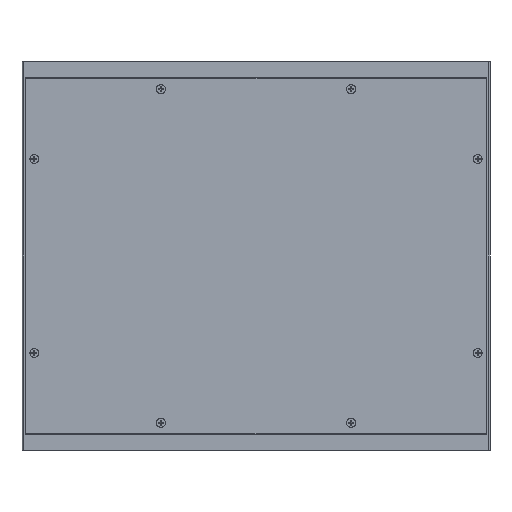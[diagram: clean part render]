
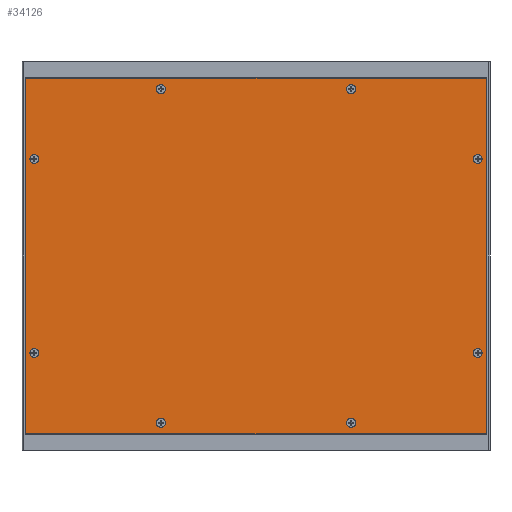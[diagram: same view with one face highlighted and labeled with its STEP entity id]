
A CAD part, front view. The second image highlights one B-rep face of the part: STEP entity #34126.
In plain terms, the highlighted planar face has unit normal (0, -1, 0).
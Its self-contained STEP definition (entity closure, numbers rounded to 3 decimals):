
#5828=DIRECTION('',(0.,0.,1.));
#5829=VECTOR('',#5828,9.15);
#5830=CARTESIAN_POINT('',(0.055,-0.845,-9.575));
#5831=LINE('',#5830,#5829);
#5832=DIRECTION('',(1.,0.,0.));
#5833=VECTOR('',#5832,11.87);
#5834=CARTESIAN_POINT('',(0.055,-0.845,-0.425));
#5835=LINE('',#5834,#5833);
#5836=DIRECTION('',(0.,0.,-1.));
#5837=VECTOR('',#5836,9.15);
#5838=CARTESIAN_POINT('',(11.925,-0.845,-0.425));
#5839=LINE('',#5838,#5837);
#5840=DIRECTION('',(-1.,0.,0.));
#5841=VECTOR('',#5840,11.87);
#5842=CARTESIAN_POINT('',(11.925,-0.845,-9.575));
#5843=LINE('',#5842,#5841);
#5844=CARTESIAN_POINT('',(11.703,-0.845,-2.5));
#5845=DIRECTION('',(0.,1.,0.));
#5846=DIRECTION('',(-1.,0.,0.));
#5847=AXIS2_PLACEMENT_3D('',#5844,#5845,#5846);
#5849=CARTESIAN_POINT('',(11.703,-0.845,-2.5));
#5850=DIRECTION('',(0.,1.,0.));
#5851=DIRECTION('',(1.,0.,0.));
#5852=AXIS2_PLACEMENT_3D('',#5849,#5850,#5851);
#5854=CARTESIAN_POINT('',(11.703,-0.845,-7.5));
#5855=DIRECTION('',(0.,1.,0.));
#5856=DIRECTION('',(-1.,0.,0.));
#5857=AXIS2_PLACEMENT_3D('',#5854,#5855,#5856);
#5859=CARTESIAN_POINT('',(11.703,-0.845,-7.5));
#5860=DIRECTION('',(0.,1.,0.));
#5861=DIRECTION('',(1.,0.,0.));
#5862=AXIS2_PLACEMENT_3D('',#5859,#5860,#5861);
#5864=CARTESIAN_POINT('',(8.44,-0.845,-0.7));
#5865=DIRECTION('',(0.,1.,0.));
#5866=DIRECTION('',(-1.,0.,0.));
#5867=AXIS2_PLACEMENT_3D('',#5864,#5865,#5866);
#5869=CARTESIAN_POINT('',(8.44,-0.845,-0.7));
#5870=DIRECTION('',(0.,1.,0.));
#5871=DIRECTION('',(1.,0.,0.));
#5872=AXIS2_PLACEMENT_3D('',#5869,#5870,#5871);
#5874=CARTESIAN_POINT('',(3.54,-0.845,-0.7));
#5875=DIRECTION('',(0.,1.,0.));
#5876=DIRECTION('',(-1.,0.,0.));
#5877=AXIS2_PLACEMENT_3D('',#5874,#5875,#5876);
#5879=CARTESIAN_POINT('',(3.54,-0.845,-0.7));
#5880=DIRECTION('',(0.,1.,0.));
#5881=DIRECTION('',(1.,0.,0.));
#5882=AXIS2_PLACEMENT_3D('',#5879,#5880,#5881);
#5884=CARTESIAN_POINT('',(0.278,-0.845,-2.5));
#5885=DIRECTION('',(0.,1.,0.));
#5886=DIRECTION('',(-1.,0.,0.));
#5887=AXIS2_PLACEMENT_3D('',#5884,#5885,#5886);
#5889=CARTESIAN_POINT('',(0.278,-0.845,-2.5));
#5890=DIRECTION('',(0.,1.,0.));
#5891=DIRECTION('',(1.,0.,0.));
#5892=AXIS2_PLACEMENT_3D('',#5889,#5890,#5891);
#5894=CARTESIAN_POINT('',(0.278,-0.845,-7.5));
#5895=DIRECTION('',(0.,1.,0.));
#5896=DIRECTION('',(-1.,0.,0.));
#5897=AXIS2_PLACEMENT_3D('',#5894,#5895,#5896);
#5899=CARTESIAN_POINT('',(0.278,-0.845,-7.5));
#5900=DIRECTION('',(0.,1.,0.));
#5901=DIRECTION('',(1.,0.,0.));
#5902=AXIS2_PLACEMENT_3D('',#5899,#5900,#5901);
#5904=CARTESIAN_POINT('',(3.54,-0.845,-9.3));
#5905=DIRECTION('',(0.,1.,0.));
#5906=DIRECTION('',(-1.,0.,0.));
#5907=AXIS2_PLACEMENT_3D('',#5904,#5905,#5906);
#5909=CARTESIAN_POINT('',(3.54,-0.845,-9.3));
#5910=DIRECTION('',(0.,1.,0.));
#5911=DIRECTION('',(1.,0.,0.));
#5912=AXIS2_PLACEMENT_3D('',#5909,#5910,#5911);
#5914=CARTESIAN_POINT('',(8.44,-0.845,-9.3));
#5915=DIRECTION('',(0.,1.,0.));
#5916=DIRECTION('',(-1.,0.,0.));
#5917=AXIS2_PLACEMENT_3D('',#5914,#5915,#5916);
#5919=CARTESIAN_POINT('',(8.44,-0.845,-9.3));
#5920=DIRECTION('',(0.,1.,0.));
#5921=DIRECTION('',(1.,0.,0.));
#5922=AXIS2_PLACEMENT_3D('',#5919,#5920,#5921);
#22030=CARTESIAN_POINT('',(0.055,-0.845,-9.575));
#22031=CARTESIAN_POINT('',(0.055,-0.845,-0.425));
#22032=VERTEX_POINT('',#22030);
#22033=VERTEX_POINT('',#22031);
#22034=CARTESIAN_POINT('',(11.925,-0.845,-0.425));
#22035=VERTEX_POINT('',#22034);
#22036=CARTESIAN_POINT('',(11.925,-0.845,-9.575));
#22037=VERTEX_POINT('',#22036);
#22070=CARTESIAN_POINT('',(11.585,-0.845,-2.5));
#22071=CARTESIAN_POINT('',(11.82,-0.845,-2.5));
#22072=VERTEX_POINT('',#22070);
#22073=VERTEX_POINT('',#22071);
#22074=CARTESIAN_POINT('',(11.585,-0.845,-7.5));
#22075=CARTESIAN_POINT('',(11.82,-0.845,-7.5));
#22076=VERTEX_POINT('',#22074);
#22077=VERTEX_POINT('',#22075);
#22078=CARTESIAN_POINT('',(8.323,-0.845,-0.7));
#22079=CARTESIAN_POINT('',(8.558,-0.845,-0.7));
#22080=VERTEX_POINT('',#22078);
#22081=VERTEX_POINT('',#22079);
#22082=CARTESIAN_POINT('',(3.423,-0.845,-0.7));
#22083=CARTESIAN_POINT('',(3.658,-0.845,-0.7));
#22084=VERTEX_POINT('',#22082);
#22085=VERTEX_POINT('',#22083);
#22086=CARTESIAN_POINT('',(0.16,-0.845,-2.5));
#22087=CARTESIAN_POINT('',(0.395,-0.845,-2.5));
#22088=VERTEX_POINT('',#22086);
#22089=VERTEX_POINT('',#22087);
#22090=CARTESIAN_POINT('',(0.16,-0.845,-7.5));
#22091=CARTESIAN_POINT('',(0.395,-0.845,-7.5));
#22092=VERTEX_POINT('',#22090);
#22093=VERTEX_POINT('',#22091);
#22094=CARTESIAN_POINT('',(3.423,-0.845,-9.3));
#22095=CARTESIAN_POINT('',(3.658,-0.845,-9.3));
#22096=VERTEX_POINT('',#22094);
#22097=VERTEX_POINT('',#22095);
#22098=CARTESIAN_POINT('',(8.323,-0.845,-9.3));
#22099=CARTESIAN_POINT('',(8.558,-0.845,-9.3));
#22100=VERTEX_POINT('',#22098);
#22101=VERTEX_POINT('',#22099);
#34066=CARTESIAN_POINT('',(0.055,-0.845,-9.575));
#34067=DIRECTION('',(0.,1.,0.));
#34068=DIRECTION('',(1.,0.,0.));
#34069=AXIS2_PLACEMENT_3D('',#34066,#34067,#34068);
#34070=PLANE('',#34069);
#34071=ORIENTED_EDGE('',*,*,#32889,.T.);
#34073=ORIENTED_EDGE('',*,*,#34072,.T.);
#34074=ORIENTED_EDGE('',*,*,#33344,.T.);
#34075=ORIENTED_EDGE('',*,*,#34053,.T.);
#34076=EDGE_LOOP('',(#34071,#34073,#34074,#34075));
#34077=FACE_OUTER_BOUND('',#34076,.F.);
#34079=ORIENTED_EDGE('',*,*,#34078,.F.);
#34081=ORIENTED_EDGE('',*,*,#34080,.F.);
#34082=EDGE_LOOP('',(#34079,#34081));
#34083=FACE_BOUND('',#34082,.F.);
#34085=ORIENTED_EDGE('',*,*,#34084,.F.);
#34087=ORIENTED_EDGE('',*,*,#34086,.F.);
#34088=EDGE_LOOP('',(#34085,#34087));
#34089=FACE_BOUND('',#34088,.F.);
#34091=ORIENTED_EDGE('',*,*,#34090,.F.);
#34093=ORIENTED_EDGE('',*,*,#34092,.F.);
#34094=EDGE_LOOP('',(#34091,#34093));
#34095=FACE_BOUND('',#34094,.F.);
#34097=ORIENTED_EDGE('',*,*,#34096,.F.);
#34099=ORIENTED_EDGE('',*,*,#34098,.F.);
#34100=EDGE_LOOP('',(#34097,#34099));
#34101=FACE_BOUND('',#34100,.F.);
#34103=ORIENTED_EDGE('',*,*,#34102,.F.);
#34105=ORIENTED_EDGE('',*,*,#34104,.F.);
#34106=EDGE_LOOP('',(#34103,#34105));
#34107=FACE_BOUND('',#34106,.F.);
#34109=ORIENTED_EDGE('',*,*,#34108,.F.);
#34111=ORIENTED_EDGE('',*,*,#34110,.F.);
#34112=EDGE_LOOP('',(#34109,#34111));
#34113=FACE_BOUND('',#34112,.F.);
#34115=ORIENTED_EDGE('',*,*,#34114,.F.);
#34117=ORIENTED_EDGE('',*,*,#34116,.F.);
#34118=EDGE_LOOP('',(#34115,#34117));
#34119=FACE_BOUND('',#34118,.F.);
#34121=ORIENTED_EDGE('',*,*,#34120,.F.);
#34123=ORIENTED_EDGE('',*,*,#34122,.F.);
#34124=EDGE_LOOP('',(#34121,#34123));
#34125=FACE_BOUND('',#34124,.F.);
#5848=CIRCLE('',#5847,0.118);
#5853=CIRCLE('',#5852,0.118);
#5858=CIRCLE('',#5857,0.118);
#5863=CIRCLE('',#5862,0.118);
#5868=CIRCLE('',#5867,0.118);
#5873=CIRCLE('',#5872,0.118);
#5878=CIRCLE('',#5877,0.118);
#5883=CIRCLE('',#5882,0.118);
#5888=CIRCLE('',#5887,0.118);
#5893=CIRCLE('',#5892,0.118);
#5898=CIRCLE('',#5897,0.118);
#5903=CIRCLE('',#5902,0.118);
#5908=CIRCLE('',#5907,0.118);
#5913=CIRCLE('',#5912,0.118);
#5918=CIRCLE('',#5917,0.118);
#5923=CIRCLE('',#5922,0.118);
#32889=EDGE_CURVE('',#22032,#22033,#5831,.T.);
#33344=EDGE_CURVE('',#22035,#22037,#5839,.T.);
#34053=EDGE_CURVE('',#22037,#22032,#5843,.T.);
#34072=EDGE_CURVE('',#22033,#22035,#5835,.T.);
#34078=EDGE_CURVE('',#22072,#22073,#5848,.T.);
#34080=EDGE_CURVE('',#22073,#22072,#5853,.T.);
#34084=EDGE_CURVE('',#22076,#22077,#5858,.T.);
#34086=EDGE_CURVE('',#22077,#22076,#5863,.T.);
#34090=EDGE_CURVE('',#22080,#22081,#5868,.T.);
#34092=EDGE_CURVE('',#22081,#22080,#5873,.T.);
#34096=EDGE_CURVE('',#22084,#22085,#5878,.T.);
#34098=EDGE_CURVE('',#22085,#22084,#5883,.T.);
#34102=EDGE_CURVE('',#22088,#22089,#5888,.T.);
#34104=EDGE_CURVE('',#22089,#22088,#5893,.T.);
#34108=EDGE_CURVE('',#22092,#22093,#5898,.T.);
#34110=EDGE_CURVE('',#22093,#22092,#5903,.T.);
#34114=EDGE_CURVE('',#22096,#22097,#5908,.T.);
#34116=EDGE_CURVE('',#22097,#22096,#5913,.T.);
#34120=EDGE_CURVE('',#22100,#22101,#5918,.T.);
#34122=EDGE_CURVE('',#22101,#22100,#5923,.T.);
#34126=ADVANCED_FACE('',(#34077,#34083,#34089,#34095,#34101,#34107,#34113,
#34119,#34125),#34070,.F.);
